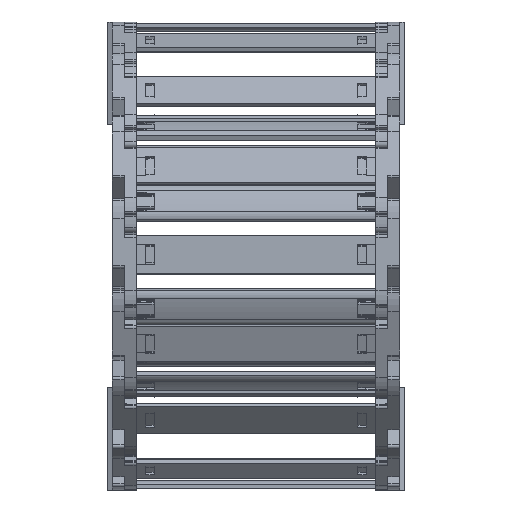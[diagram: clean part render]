
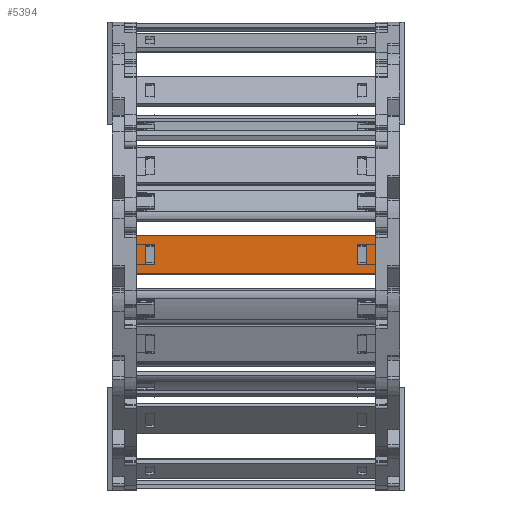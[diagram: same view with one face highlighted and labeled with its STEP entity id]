
A CAD part, left-side view. The second image highlights one B-rep face of the part: STEP entity #5394.
In plain terms, the highlighted planar face has unit normal (-1, 0, 0.007) as drawn and (0, 1, 0) by its records, which use the part's own axes.
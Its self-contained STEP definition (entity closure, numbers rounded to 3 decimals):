
#4814=DIRECTION('',(0.,0.,1.));
#4815=VECTOR('',#4814,15.8);
#4816=CARTESIAN_POINT('',(85.74,1.5,-7.9));
#4817=LINE('',#4816,#4815);
#4818=DIRECTION('',(-1.,0.,0.));
#4819=VECTOR('',#4818,100.5);
#4820=CARTESIAN_POINT('',(85.74,1.5,7.9));
#4821=LINE('',#4820,#4819);
#4822=DIRECTION('',(0.,0.,-1.));
#4823=VECTOR('',#4822,15.8);
#4824=CARTESIAN_POINT('',(-14.76,1.5,7.9));
#4825=LINE('',#4824,#4823);
#4826=DIRECTION('',(1.,0.,0.));
#4827=VECTOR('',#4826,3.648);
#4828=CARTESIAN_POINT('',(78.122,1.5,4.075));
#4829=LINE('',#4828,#4827);
#4830=DIRECTION('',(0.,0.,-1.));
#4831=VECTOR('',#4830,8.15);
#4832=CARTESIAN_POINT('',(81.77,1.5,4.075));
#4833=LINE('',#4832,#4831);
#4834=DIRECTION('',(-1.,0.,0.));
#4835=VECTOR('',#4834,3.648);
#4836=CARTESIAN_POINT('',(81.77,1.5,-4.075));
#4837=LINE('',#4836,#4835);
#4838=DIRECTION('',(0.,0.,-1.));
#4839=VECTOR('',#4838,8.15);
#4840=CARTESIAN_POINT('',(-7.142,1.5,4.075));
#4841=LINE('',#4840,#4839);
#4842=DIRECTION('',(-1.,0.,0.));
#4843=VECTOR('',#4842,3.648);
#4844=CARTESIAN_POINT('',(-7.142,1.5,-4.075));
#4845=LINE('',#4844,#4843);
#4846=DIRECTION('',(0.,0.,1.));
#4847=VECTOR('',#4846,8.15);
#4848=CARTESIAN_POINT('',(-10.79,1.5,-4.075));
#4849=LINE('',#4848,#4847);
#4850=DIRECTION('',(1.,0.,0.));
#4851=VECTOR('',#4850,3.648);
#4852=CARTESIAN_POINT('',(-10.79,1.5,4.075));
#4853=LINE('',#4852,#4851);
#4858=DIRECTION('',(-1.,0.,0.));
#4859=VECTOR('',#4858,100.5);
#4860=CARTESIAN_POINT('',(85.74,1.5,-7.9));
#4861=LINE('',#4860,#4859);
#4979=DIRECTION('',(0.,0.,-1.));
#4980=VECTOR('',#4979,8.15);
#4981=CARTESIAN_POINT('',(78.122,1.5,4.075));
#4982=LINE('',#4981,#4980);
#5164=CARTESIAN_POINT('',(81.77,1.5,4.075));
#5165=VERTEX_POINT('',#5164);
#5166=CARTESIAN_POINT('',(78.122,1.5,4.075));
#5167=VERTEX_POINT('',#5166);
#5208=CARTESIAN_POINT('',(78.122,1.5,-4.075));
#5209=VERTEX_POINT('',#5208);
#5210=CARTESIAN_POINT('',(81.77,1.5,-4.075));
#5211=VERTEX_POINT('',#5210);
#5212=CARTESIAN_POINT('',(85.74,1.5,7.9));
#5214=VERTEX_POINT('',#5212);
#5216=CARTESIAN_POINT('',(85.74,1.5,-7.9));
#5217=VERTEX_POINT('',#5216);
#5240=CARTESIAN_POINT('',(-7.142,1.5,4.075));
#5241=CARTESIAN_POINT('',(-7.142,1.5,-4.075));
#5242=VERTEX_POINT('',#5240);
#5243=VERTEX_POINT('',#5241);
#5244=CARTESIAN_POINT('',(-10.79,1.5,-4.075));
#5245=VERTEX_POINT('',#5244);
#5246=CARTESIAN_POINT('',(-10.79,1.5,4.075));
#5247=VERTEX_POINT('',#5246);
#5248=CARTESIAN_POINT('',(-14.76,1.5,7.9));
#5249=VERTEX_POINT('',#5248);
#5252=CARTESIAN_POINT('',(-14.76,1.5,-7.9));
#5253=VERTEX_POINT('',#5252);
#5363=CARTESIAN_POINT('',(117.48,1.5,10.061));
#5364=DIRECTION('',(0.,-1.,0.));
#5365=DIRECTION('',(0.,0.,-1.));
#5366=AXIS2_PLACEMENT_3D('',#5363,#5364,#5365);
#5367=PLANE('',#5366);
#5368=ORIENTED_EDGE('',*,*,#5302,.T.);
#5369=ORIENTED_EDGE('',*,*,#5328,.T.);
#5370=ORIENTED_EDGE('',*,*,#5341,.T.);
#5372=ORIENTED_EDGE('',*,*,#5371,.F.);
#5373=EDGE_LOOP('',(#5368,#5369,#5370,#5372));
#5374=FACE_OUTER_BOUND('',#5373,.F.);
#5376=ORIENTED_EDGE('',*,*,#5375,.F.);
#5377=ORIENTED_EDGE('',*,*,#5265,.T.);
#5379=ORIENTED_EDGE('',*,*,#5378,.T.);
#5381=ORIENTED_EDGE('',*,*,#5380,.T.);
#5382=EDGE_LOOP('',(#5376,#5377,#5379,#5381));
#5383=FACE_BOUND('',#5382,.F.);
#5385=ORIENTED_EDGE('',*,*,#5384,.T.);
#5387=ORIENTED_EDGE('',*,*,#5386,.T.);
#5389=ORIENTED_EDGE('',*,*,#5388,.T.);
#5391=ORIENTED_EDGE('',*,*,#5390,.T.);
#5392=EDGE_LOOP('',(#5385,#5387,#5389,#5391));
#5393=FACE_BOUND('',#5392,.F.);
#5394=ADVANCED_FACE('',(#5374,#5383,#5393),#5367,.F.);
#5265=EDGE_CURVE('',#5167,#5165,#4829,.T.);
#5302=EDGE_CURVE('',#5217,#5214,#4817,.T.);
#5328=EDGE_CURVE('',#5214,#5249,#4821,.T.);
#5341=EDGE_CURVE('',#5249,#5253,#4825,.T.);
#5371=EDGE_CURVE('',#5217,#5253,#4861,.T.);
#5375=EDGE_CURVE('',#5167,#5209,#4982,.T.);
#5378=EDGE_CURVE('',#5165,#5211,#4833,.T.);
#5380=EDGE_CURVE('',#5211,#5209,#4837,.T.);
#5384=EDGE_CURVE('',#5242,#5243,#4841,.T.);
#5386=EDGE_CURVE('',#5243,#5245,#4845,.T.);
#5388=EDGE_CURVE('',#5245,#5247,#4849,.T.);
#5390=EDGE_CURVE('',#5247,#5242,#4853,.T.);
